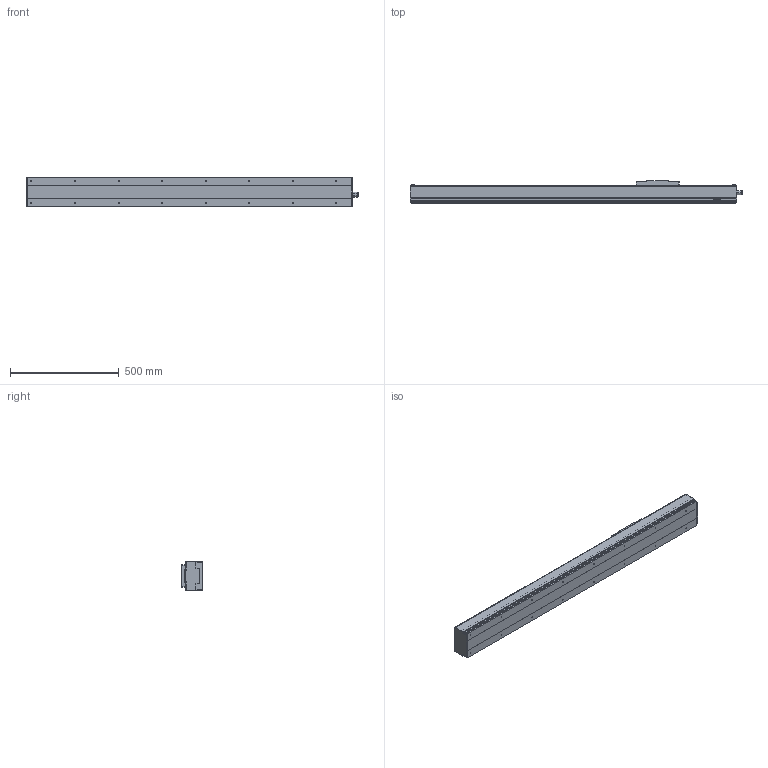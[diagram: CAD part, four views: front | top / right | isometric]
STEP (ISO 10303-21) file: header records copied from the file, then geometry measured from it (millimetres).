
FILE_DESCRIPTION(/* description */ (''),/* implementation_level */ '2;1');
FILE_NAME(/* name */ 'D:\混合母檔20191031\混和母檔\混和母檔\bin\Debug\Download\3D\KS140-10C-1000AFI\KS140-10C-1000AFI.stp',/* time_stamp */ '2019-11-04T15:34:59+08:00',/* author */ ('user'),/* organization */ (''),/* preprocessor_version */ 'ST-DEVELOPER v16.13',/* originating_system */ 'Autodesk Inventor 2018',/* authorisation */ '');
FILE_SCHEMA (('AUTOMOTIVE_DESIGN { 1 0 10303 214 3 1 1 }'));
Length unit declared in the file: millimetre
Products named in the file (3): KS140-10C-1000AFI; KS140-FI-BP; KS140-SL
Assembly tree (2 placements, depth 2):
  KS140-10C-1000AFI
    KS140-FI-BP
    KS140-SL
Bounding box: 1524.5 x 101 x 136 mm (x, y, z)
Volume: 5731867.7 mm3; surface area: 1485570.6 mm2
Topology: 4 solids, 8 shells, 691 faces, 1895 edges, 1243 vertices
Faces by surface type: plane 373, bspline 136, cylinder 84, cone 78, torus 16, sphere 4
Full cylindrical faces by diameter (mm): 3.571 x8, 4 x4, 4.134 x4, 4.3 x4, 4.917 x20, 6 x2, 8 x3, 8.4 x4, 12 x2, 13.1 x1, 15 x1, 18.75 x2, 46 x1, 50 x1
Entity records: 22217 total; most frequent: CARTESIAN_POINT 5941, ORIENTED_EDGE 3476, DIRECTION 2851, EDGE_CURVE 1737, VERTEX_POINT 1192, LINE 1143, VECTOR 1143, AXIS2_PLACEMENT_3D 854
